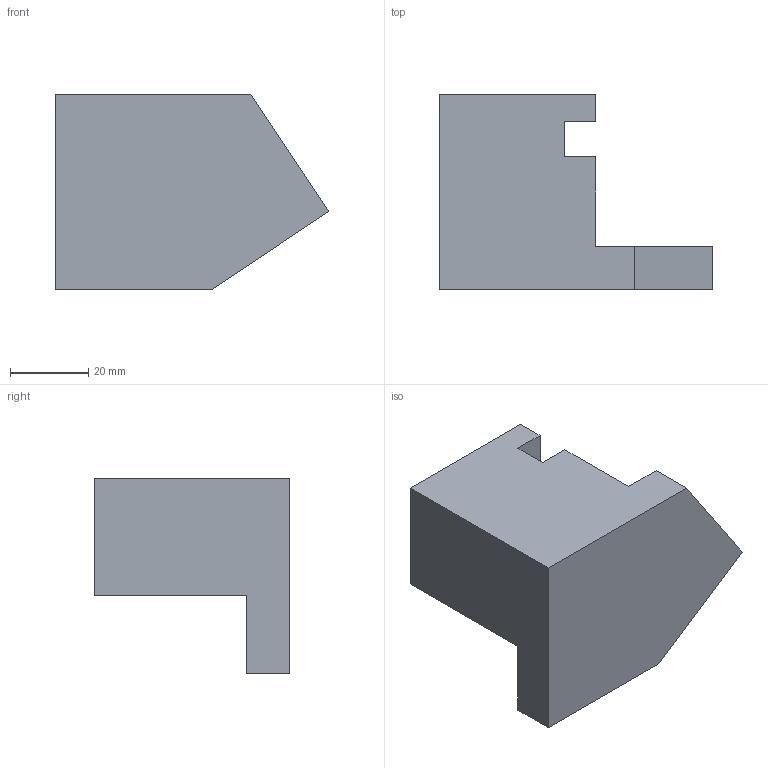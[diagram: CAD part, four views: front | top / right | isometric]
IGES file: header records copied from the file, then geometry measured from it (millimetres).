
Start section: SolidWorks IGES FILE using analytic representation for surfaces
Global section: file name: D:\Mes documents\Progression par Centres d'Intérêt\C.I. 12 - La définition de produit et la spécification fonctionnelle\Cours - Exécution graphique de la cotation\TD Execution graphique de la cotation\came.IGS; native system: SolidWorks 2003 by SolidWorks Corporation; preprocessor: Version 5.3; author: Jordi et Mariejo; date: 060923.095910; units: millimetre
Bounding box: 70 x 50 x 50 mm (x, y, z)
Surface area: 13929.2 mm2 (no closed solid volume)
Topology: 0 solids, 0 shells, 14 faces, 72 edges, 72 vertices
Faces by surface type: bspline 14
